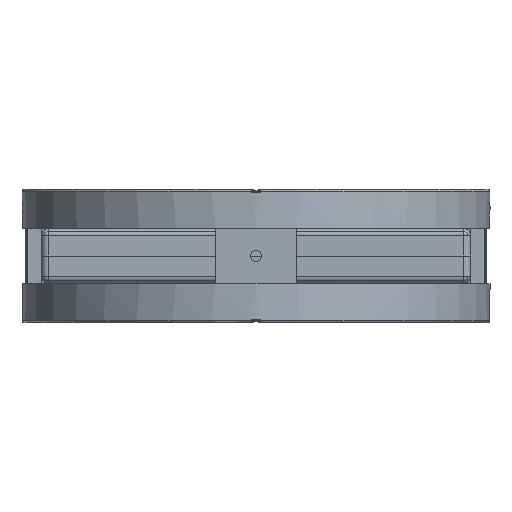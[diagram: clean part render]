
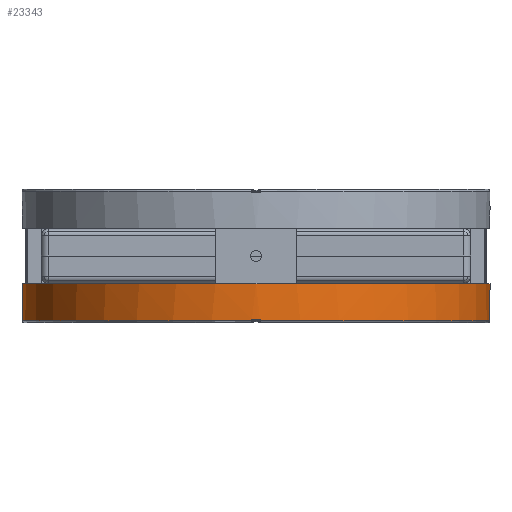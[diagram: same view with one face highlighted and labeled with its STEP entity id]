
A CAD part, front view. The second image highlights one B-rep face of the part: STEP entity #23343.
In plain terms, the highlighted cylindrical face has radius 175 mm (diameter 350 mm), a full revolution.
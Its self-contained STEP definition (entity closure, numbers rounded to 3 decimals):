
#16177=LINE('',#71988,#18578);
#16178=LINE('',#71990,#18579);
#16179=LINE('',#71994,#18580);
#16180=LINE('',#71998,#18581);
#18578=VECTOR('',#58799,1.);
#18579=VECTOR('',#58800,1.);
#18580=VECTOR('',#58803,1.);
#18581=VECTOR('',#58806,1.);
#20362=CYLINDRICAL_SURFACE('',#52798,175.);
#21336=FACE_BOUND('',#28784,.T.);
#21337=FACE_BOUND('',#28785,.T.);
#23343=ADVANCED_FACE('',(#21336,#21337),#20362,.T.);
#28784=EDGE_LOOP('',(#34437));
#28785=EDGE_LOOP('',(#34438,#34439,#34440,#34441,#34442,#34443,#34444,#34445));
#34437=ORIENTED_EDGE('',*,*,#46640,.F.);
#34438=ORIENTED_EDGE('',*,*,#46641,.F.);
#34439=ORIENTED_EDGE('',*,*,#46618,.T.);
#34440=ORIENTED_EDGE('',*,*,#46642,.F.);
#34441=ORIENTED_EDGE('',*,*,#46643,.T.);
#34442=ORIENTED_EDGE('',*,*,#46644,.F.);
#34443=ORIENTED_EDGE('',*,*,#46645,.T.);
#34444=ORIENTED_EDGE('',*,*,#46646,.F.);
#34445=ORIENTED_EDGE('',*,*,#46647,.T.);
#42431=VERTEX_POINT('',#71896);
#42433=VERTEX_POINT('',#71900);
#42455=VERTEX_POINT('',#71987);
#42456=VERTEX_POINT('',#71989);
#42457=VERTEX_POINT('',#71991);
#42458=VERTEX_POINT('',#71993);
#42459=VERTEX_POINT('',#71995);
#42460=VERTEX_POINT('',#71997);
#42461=VERTEX_POINT('',#71999);
#46618=EDGE_CURVE('',#42431,#42433,#50502,.T.);
#46640=EDGE_CURVE('',#42455,#42455,#50507,.T.);
#46641=EDGE_CURVE('',#42431,#42456,#16177,.T.);
#46642=EDGE_CURVE('',#42457,#42433,#16178,.T.);
#46643=EDGE_CURVE('',#42457,#42458,#50508,.T.);
#46644=EDGE_CURVE('',#42459,#42458,#16179,.T.);
#46645=EDGE_CURVE('',#42459,#42460,#50509,.T.);
#46646=EDGE_CURVE('',#42461,#42460,#16180,.T.);
#46647=EDGE_CURVE('',#42461,#42456,#50510,.T.);
#50502=CIRCLE('',#52786,175.);
#50507=CIRCLE('',#52794,175.);
#50508=CIRCLE('',#52795,175.);
#50509=CIRCLE('',#52796,175.);
#50510=CIRCLE('',#52797,175.);
#52786=AXIS2_PLACEMENT_3D('',#71901,#58777,#58778);
#52794=AXIS2_PLACEMENT_3D('',#71986,#58797,#58798);
#52795=AXIS2_PLACEMENT_3D('',#71992,#58801,#58802);
#52796=AXIS2_PLACEMENT_3D('',#71996,#58804,#58805);
#52797=AXIS2_PLACEMENT_3D('',#72000,#58807,#58808);
#52798=AXIS2_PLACEMENT_3D('',#72001,#58809,#58810);
#58777=DIRECTION('',(1.,0.,0.));
#58778=DIRECTION('',(0.,-1.,0.));
#58797=DIRECTION('',(1.,0.,0.));
#58798=DIRECTION('',(0.,-1.,0.));
#58799=DIRECTION('',(-1.,0.,0.));
#58800=DIRECTION('',(1.,0.,0.));
#58801=DIRECTION('',(1.,0.,0.));
#58802=DIRECTION('',(0.,-1.,0.));
#58803=DIRECTION('',(-1.,0.,0.));
#58804=DIRECTION('',(1.,0.,0.));
#58805=DIRECTION('',(0.,-1.,0.));
#58806=DIRECTION('',(1.,0.,0.));
#58807=DIRECTION('',(1.,0.,0.));
#58808=DIRECTION('',(0.,-1.,0.));
#58809=DIRECTION('',(1.,0.,0.));
#58810=DIRECTION('',(0.,-1.,0.));
#71896=CARTESIAN_POINT('',(-47.375,3.,700.974));
#71900=CARTESIAN_POINT('',(-47.375,-3.,700.974));
#71901=CARTESIAN_POINT('',(-47.375,0.,526.));
#71986=CARTESIAN_POINT('',(-20.575,0.,526.));
#71987=CARTESIAN_POINT('',(-20.575,-175.,526.));
#71988=CARTESIAN_POINT('',(-20.575,3.,700.974));
#71989=CARTESIAN_POINT('',(-48.375,3.,700.974));
#71990=CARTESIAN_POINT('',(-20.575,-3.,700.974));
#71991=CARTESIAN_POINT('',(-48.375,-3.,700.974));
#71992=CARTESIAN_POINT('',(-48.375,0.,526.));
#71993=CARTESIAN_POINT('',(-48.375,-3.,351.026));
#71994=CARTESIAN_POINT('',(-20.575,-3.,351.026));
#71995=CARTESIAN_POINT('',(-47.375,-3.,351.026));
#71996=CARTESIAN_POINT('',(-47.375,0.,526.));
#71997=CARTESIAN_POINT('',(-47.375,3.,351.026));
#71998=CARTESIAN_POINT('',(-20.575,3.,351.026));
#71999=CARTESIAN_POINT('',(-48.375,3.,351.026));
#72000=CARTESIAN_POINT('',(-48.375,0.,526.));
#72001=CARTESIAN_POINT('',(-20.575,0.,526.));
